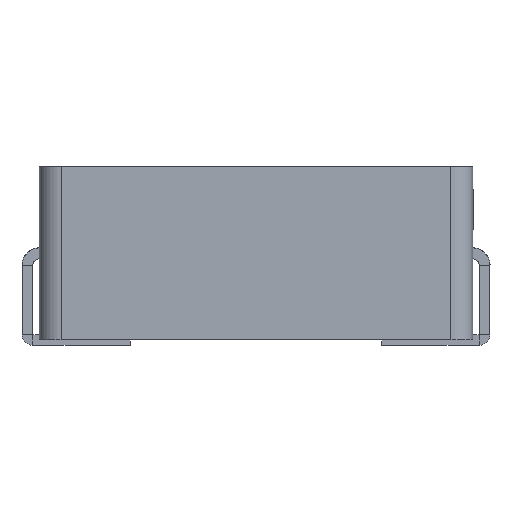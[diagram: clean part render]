
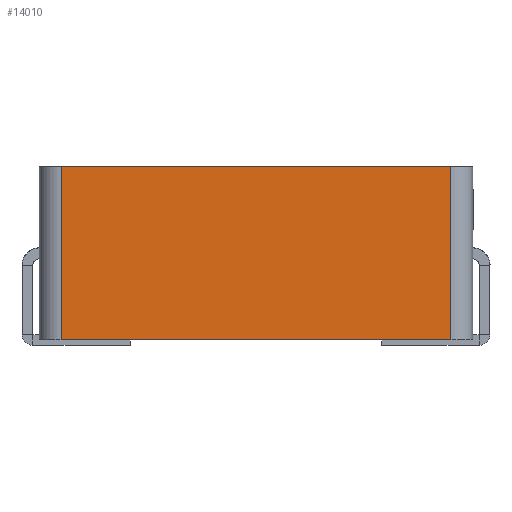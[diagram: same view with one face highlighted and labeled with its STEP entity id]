
A CAD part, front view. The second image highlights one B-rep face of the part: STEP entity #14010.
In plain terms, the highlighted planar face has unit normal (0, -1, 0).
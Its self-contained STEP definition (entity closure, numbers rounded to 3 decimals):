
#1342 = CARTESIAN_POINT ( 'NONE',  ( -5., -5., 4.1 ) ) ;
#2046 = VECTOR ( 'NONE', #13681, 1000. ) ;
#2546 = VECTOR ( 'NONE', #7203, 1000. ) ;
#2765 = ORIENTED_EDGE ( 'NONE', *, *, #18074, .F. ) ;
#2829 = LINE ( 'NONE', #10526, #2546 ) ;
#3476 = EDGE_CURVE ( 'NONE', #16234, #15566, #2829, .T. ) ;
#3856 = CARTESIAN_POINT ( 'NONE',  ( -4.5, -5., 4.1 ) ) ;
#3962 = LINE ( 'NONE', #3856, #9273 ) ;
#4060 = CARTESIAN_POINT ( 'NONE',  ( 4.5, -5., 4.1 ) ) ;
#4625 = DIRECTION ( 'NONE',  ( 0., 0., 1. ) ) ;
#5789 = PLANE ( 'NONE',  #18452 ) ;
#7203 = DIRECTION ( 'NONE',  ( 1., 0., 0. ) ) ;
#7373 = VERTEX_POINT ( 'NONE', #4060 ) ;
#8158 = ORIENTED_EDGE ( 'NONE', *, *, #11339, .T. ) ;
#8303 = DIRECTION ( 'NONE',  ( 0., 0., -1. ) ) ;
#9273 = VECTOR ( 'NONE', #8303, 1000. ) ;
#9518 = CARTESIAN_POINT ( 'NONE',  ( 4.5, -5., 4.1 ) ) ;
#10007 = ORIENTED_EDGE ( 'NONE', *, *, #17208, .T. ) ;
#10526 = CARTESIAN_POINT ( 'NONE',  ( -5., -5., 0.1 ) ) ;
#11339 = EDGE_CURVE ( 'NONE', #15566, #7373, #12240, .T. ) ;
#11611 = LINE ( 'NONE', #1342, #18868 ) ;
#11690 = CARTESIAN_POINT ( 'NONE',  ( 4.5, -5., 0.1 ) ) ;
#11708 = DIRECTION ( 'NONE',  ( 0., 1., 0. ) ) ;
#11720 = ORIENTED_EDGE ( 'NONE', *, *, #3476, .T. ) ;
#12240 = LINE ( 'NONE', #9518, #2046 ) ;
#12826 = VERTEX_POINT ( 'NONE', #15571 ) ;
#13681 = DIRECTION ( 'NONE',  ( 0., 0., 1. ) ) ;
#14010 = ADVANCED_FACE ( 'NONE', ( #14965 ), #5789, .F. ) ;
#14965 = FACE_OUTER_BOUND ( 'NONE', #16861, .T. ) ;
#15566 = VERTEX_POINT ( 'NONE', #11690 ) ;
#15571 = CARTESIAN_POINT ( 'NONE',  ( -4.5, -5., 4.1 ) ) ;
#16052 = DIRECTION ( 'NONE',  ( 1., 0., 0. ) ) ;
#16234 = VERTEX_POINT ( 'NONE', #17304 ) ;
#16861 = EDGE_LOOP ( 'NONE', ( #11720, #8158, #2765, #10007 ) ) ;
#17208 = EDGE_CURVE ( 'NONE', #12826, #16234, #3962, .T. ) ;
#17304 = CARTESIAN_POINT ( 'NONE',  ( -4.5, -5., 0.1 ) ) ;
#17906 = CARTESIAN_POINT ( 'NONE',  ( -5., -5., 4.1 ) ) ;
#18074 = EDGE_CURVE ( 'NONE', #12826, #7373, #11611, .T. ) ;
#18452 = AXIS2_PLACEMENT_3D ( 'NONE', #17906, #11708, #4625 ) ;
#18868 = VECTOR ( 'NONE', #16052, 1000. ) ;
